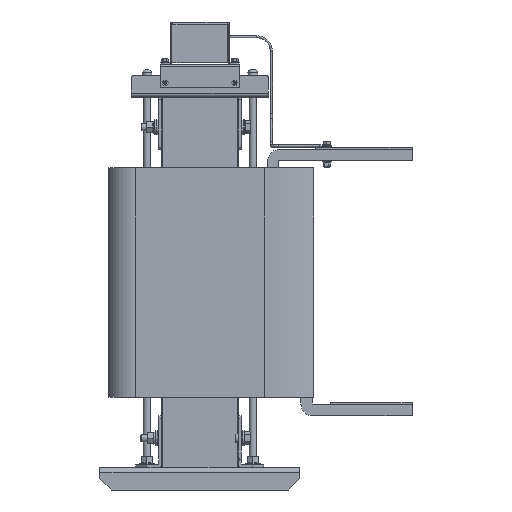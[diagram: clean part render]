
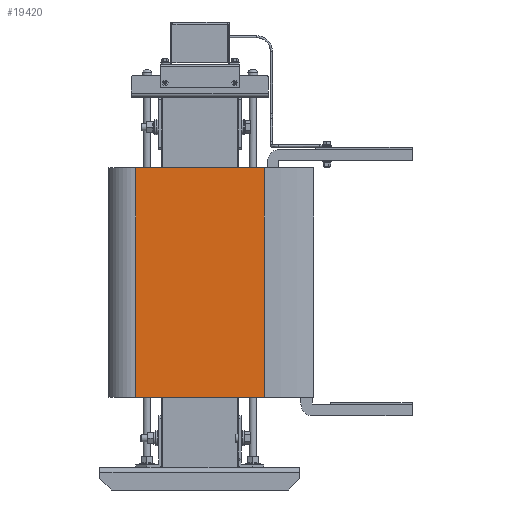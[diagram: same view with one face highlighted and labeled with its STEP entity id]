
A CAD part, left-side view. The second image highlights one B-rep face of the part: STEP entity #19420.
In plain terms, the highlighted planar face has unit normal (-1, 0, 0).
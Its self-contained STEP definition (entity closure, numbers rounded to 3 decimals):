
#19420=ADVANCED_FACE('',(#37575),#37577,.T.);
#37575=FACE_BOUND('',#37576,.T.);
#37576=EDGE_LOOP('',(#47933,#47934,#47935,#47936));
#37577=PLANE('',#37578);
#37578=AXIS2_PLACEMENT_3D('',#37579,#37580,#37581);
#37579=CARTESIAN_POINT('',(-237.5,-133.393,95.));
#37580=DIRECTION('',(-1.,0.,0.));
#37581=DIRECTION('',(0.,0.,1.));
#47933=ORIENTED_EDGE('',*,*,#52792,.T.);
#47934=ORIENTED_EDGE('',*,*,#52802,.T.);
#47935=ORIENTED_EDGE('',*,*,#52779,.F.);
#47936=ORIENTED_EDGE('',*,*,#52803,.T.);
#52779=EDGE_CURVE('',#59891,#59893,#59894,.T.);
#52792=EDGE_CURVE('',#59913,#59910,#59914,.T.);
#52802=EDGE_CURVE('',#59910,#59893,#59926,.T.);
#52803=EDGE_CURVE('',#59891,#59913,#59927,.T.);
#59891=VERTEX_POINT('',#98643);
#59893=VERTEX_POINT('',#98648);
#59894=LINE('',#98649,#98650);
#59910=VERTEX_POINT('',#98693);
#59913=VERTEX_POINT('',#98699);
#59914=LINE('',#98700,#98701);
#59926=LINE('',#98734,#98735);
#59927=LINE('',#98737,#98738);
#98643=CARTESIAN_POINT('',(-237.5,39.959,405.));
#98648=CARTESIAN_POINT('',(-237.5,-133.393,405.));
#98649=CARTESIAN_POINT('',(-237.5,39.959,405.));
#98650=VECTOR('',#98651,1.);
#98651=DIRECTION('',(0.,-1.,0.));
#98693=CARTESIAN_POINT('',(-237.5,-133.393,95.));
#98699=CARTESIAN_POINT('',(-237.5,39.959,95.));
#98700=CARTESIAN_POINT('',(-237.5,39.959,95.));
#98701=VECTOR('',#98702,1.);
#98702=DIRECTION('',(0.,-1.,0.));
#98734=CARTESIAN_POINT('',(-237.5,-133.393,95.));
#98735=VECTOR('',#98736,1.);
#98736=DIRECTION('',(0.,0.,1.));
#98737=CARTESIAN_POINT('',(-237.5,39.959,405.));
#98738=VECTOR('',#98739,1.);
#98739=DIRECTION('',(0.,0.,-1.));
